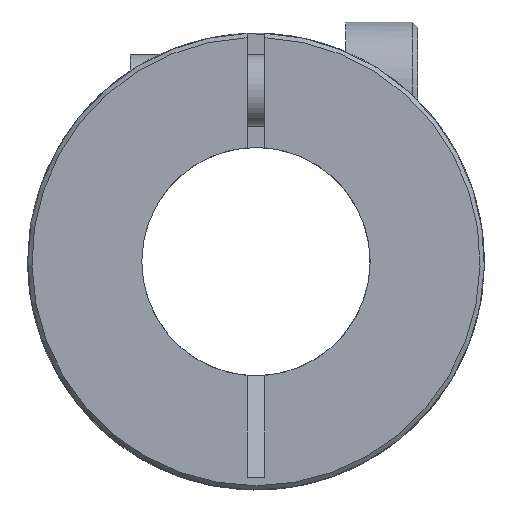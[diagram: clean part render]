
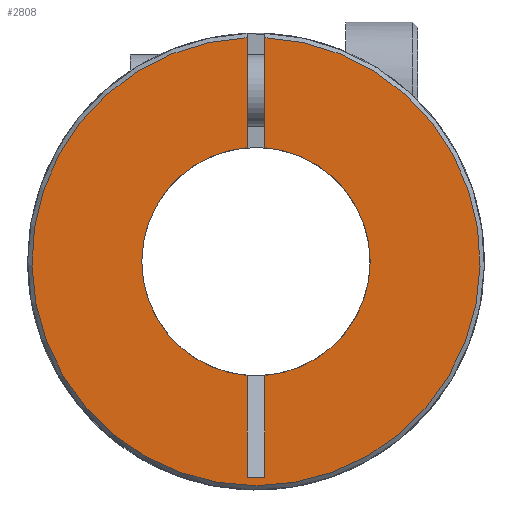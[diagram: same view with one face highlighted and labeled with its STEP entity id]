
A CAD part, front view. The second image highlights one B-rep face of the part: STEP entity #2808.
In plain terms, the highlighted planar face has unit normal (0, -1, 0).
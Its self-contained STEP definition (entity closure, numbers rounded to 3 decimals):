
#1=DIRECTION('',(0.,0.,-1.));
#2=VECTOR('',#1,3.06);
#3=CARTESIAN_POINT('',(-0.25,-11.45,6.225));
#4=LINE('',#3,#2);
#5=CARTESIAN_POINT('',(0.,-11.45,0.));
#6=DIRECTION('',(0.,1.,0.));
#7=DIRECTION('',(-1.,0.,0.));
#8=AXIS2_PLACEMENT_3D('',#5,#6,#7);
#10=CARTESIAN_POINT('',(0.,-11.45,0.));
#11=DIRECTION('',(0.,1.,0.));
#12=DIRECTION('',(-0.079,0.,-0.997));
#13=AXIS2_PLACEMENT_3D('',#10,#11,#12);
#15=DIRECTION('',(0.,0.,-1.));
#16=VECTOR('',#15,2.835);
#17=CARTESIAN_POINT('',(-0.25,-11.45,-3.165));
#18=LINE('',#17,#16);
#19=DIRECTION('',(1.,0.,0.));
#20=VECTOR('',#19,0.5);
#21=CARTESIAN_POINT('',(-0.25,-11.45,-6.));
#22=LINE('',#21,#20);
#23=DIRECTION('',(0.,0.,-1.));
#24=VECTOR('',#23,2.835);
#25=CARTESIAN_POINT('',(0.25,-11.45,-3.165));
#26=LINE('',#25,#24);
#27=DIRECTION('',(0.,0.,-1.));
#28=VECTOR('',#27,3.06);
#29=CARTESIAN_POINT('',(0.25,-11.45,6.225));
#30=LINE('',#29,#28);
#54=CARTESIAN_POINT('',(0.,-11.45,0.));
#55=DIRECTION('',(0.,1.,0.));
#56=DIRECTION('',(0.079,0.,0.997));
#57=AXIS2_PLACEMENT_3D('',#54,#55,#56);
#2313=CARTESIAN_POINT('',(0.,-11.45,0.));
#2314=DIRECTION('',(0.,-1.,0.));
#2315=DIRECTION('',(-0.04,0.,0.999));
#2316=AXIS2_PLACEMENT_3D('',#2313,#2314,#2315);
#2477=CARTESIAN_POINT('',(-3.175,-11.45,0.));
#2478=VERTEX_POINT('',#2477);
#2552=CARTESIAN_POINT('',(-0.25,-11.45,-6.));
#2554=VERTEX_POINT('',#2552);
#2556=CARTESIAN_POINT('',(0.25,-11.45,-6.));
#2558=VERTEX_POINT('',#2556);
#2609=CARTESIAN_POINT('',(-0.25,-11.45,6.225));
#2610=CARTESIAN_POINT('',(-0.25,-11.45,3.165));
#2611=VERTEX_POINT('',#2609);
#2612=VERTEX_POINT('',#2610);
#2613=CARTESIAN_POINT('',(-0.25,-11.45,-3.165));
#2614=VERTEX_POINT('',#2613);
#2615=CARTESIAN_POINT('',(0.25,-11.45,6.225));
#2616=CARTESIAN_POINT('',(0.25,-11.45,3.165));
#2617=VERTEX_POINT('',#2615);
#2618=VERTEX_POINT('',#2616);
#2619=CARTESIAN_POINT('',(0.25,-11.45,-3.165));
#2620=VERTEX_POINT('',#2619);
#2783=CARTESIAN_POINT('',(0.,-11.45,0.));
#2784=DIRECTION('',(0.,1.,0.));
#2785=DIRECTION('',(1.,0.,0.));
#2786=AXIS2_PLACEMENT_3D('',#2783,#2784,#2785);
#2787=PLANE('',#2786);
#2789=ORIENTED_EDGE('',*,*,#2788,.T.);
#2791=ORIENTED_EDGE('',*,*,#2790,.F.);
#2793=ORIENTED_EDGE('',*,*,#2792,.F.);
#2795=ORIENTED_EDGE('',*,*,#2794,.T.);
#2797=ORIENTED_EDGE('',*,*,#2796,.T.);
#2799=ORIENTED_EDGE('',*,*,#2798,.F.);
#2801=ORIENTED_EDGE('',*,*,#2800,.F.);
#2803=ORIENTED_EDGE('',*,*,#2802,.F.);
#2805=ORIENTED_EDGE('',*,*,#2804,.F.);
#2806=EDGE_LOOP('',(#2789,#2791,#2793,#2795,#2797,#2799,#2801,#2803,#2805));
#2807=FACE_OUTER_BOUND('',#2806,.F.);
#2808=ADVANCED_FACE('',(#2807),#2787,.F.);
#9=CIRCLE('',#8,3.175);
#14=CIRCLE('',#13,3.175);
#58=CIRCLE('',#57,3.175);
#2317=CIRCLE('',#2316,6.23);
#2788=EDGE_CURVE('',#2611,#2612,#4,.T.);
#2790=EDGE_CURVE('',#2478,#2612,#9,.T.);
#2792=EDGE_CURVE('',#2614,#2478,#14,.T.);
#2794=EDGE_CURVE('',#2614,#2554,#18,.T.);
#2796=EDGE_CURVE('',#2554,#2558,#22,.T.);
#2798=EDGE_CURVE('',#2620,#2558,#26,.T.);
#2800=EDGE_CURVE('',#2618,#2620,#58,.T.);
#2802=EDGE_CURVE('',#2617,#2618,#30,.T.);
#2804=EDGE_CURVE('',#2611,#2617,#2317,.T.);
